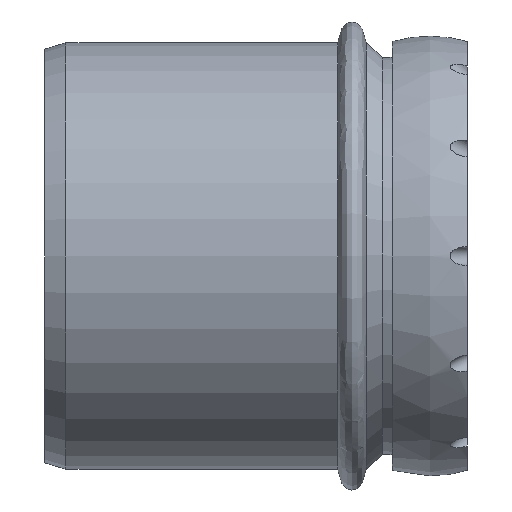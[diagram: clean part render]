
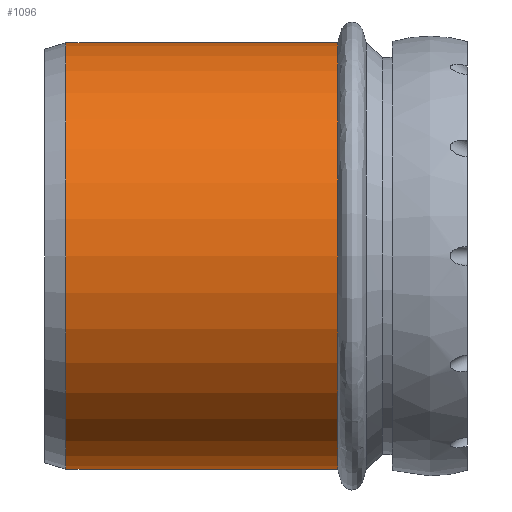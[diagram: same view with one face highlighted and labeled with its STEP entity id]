
A CAD part, front view. The second image highlights one B-rep face of the part: STEP entity #1096.
In plain terms, the highlighted cylindrical face has radius 45.1 mm (diameter 90.2 mm), a full revolution.
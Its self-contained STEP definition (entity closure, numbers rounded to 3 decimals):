
#18=FACE_BOUND('',#204,.T.);
#142=FACE_OUTER_BOUND('',#203,.T.);
#203=EDGE_LOOP('',(#927));
#204=EDGE_LOOP('',(#928));
#271=CIRCLE('',#1218,45.1);
#273=CIRCLE('',#1222,45.1);
#501=VERTEX_POINT('',#2384);
#503=VERTEX_POINT('',#2391);
#652=EDGE_CURVE('',#501,#501,#271,.T.);
#654=EDGE_CURVE('',#503,#503,#273,.T.);
#927=ORIENTED_EDGE('',*,*,#652,.F.);
#928=ORIENTED_EDGE('',*,*,#654,.T.);
#980=CYLINDRICAL_SURFACE('',#1223,45.1);
#1096=ADVANCED_FACE('',(#142,#18),#980,.T.);
#1218=AXIS2_PLACEMENT_3D('',#2386,#1523,#1524);
#1222=AXIS2_PLACEMENT_3D('',#2392,#1531,#1532);
#1223=AXIS2_PLACEMENT_3D('',#2393,#1533,#1534);
#1523=DIRECTION('center_axis',(1.,0.,0.));
#1524=DIRECTION('ref_axis',(0.,0.,-1.));
#1531=DIRECTION('center_axis',(1.,0.,0.));
#1532=DIRECTION('ref_axis',(0.,0.,-1.));
#1533=DIRECTION('center_axis',(1.,0.,0.));
#1534=DIRECTION('ref_axis',(0.,1.,0.));
#2384=CARTESIAN_POINT('',(62.,47.95,0.));
#2386=CARTESIAN_POINT('Origin',(62.,2.85,0.));
#2391=CARTESIAN_POINT('',(4.5,47.95,0.));
#2392=CARTESIAN_POINT('Origin',(4.5,2.85,0.));
#2393=CARTESIAN_POINT('Origin',(33.25,2.85,0.));
